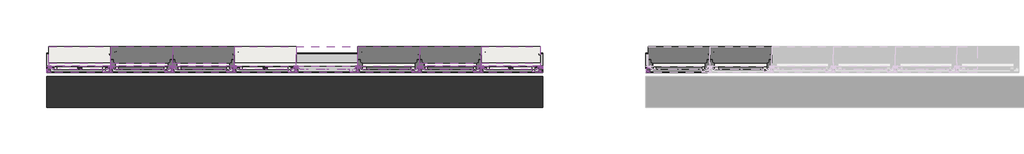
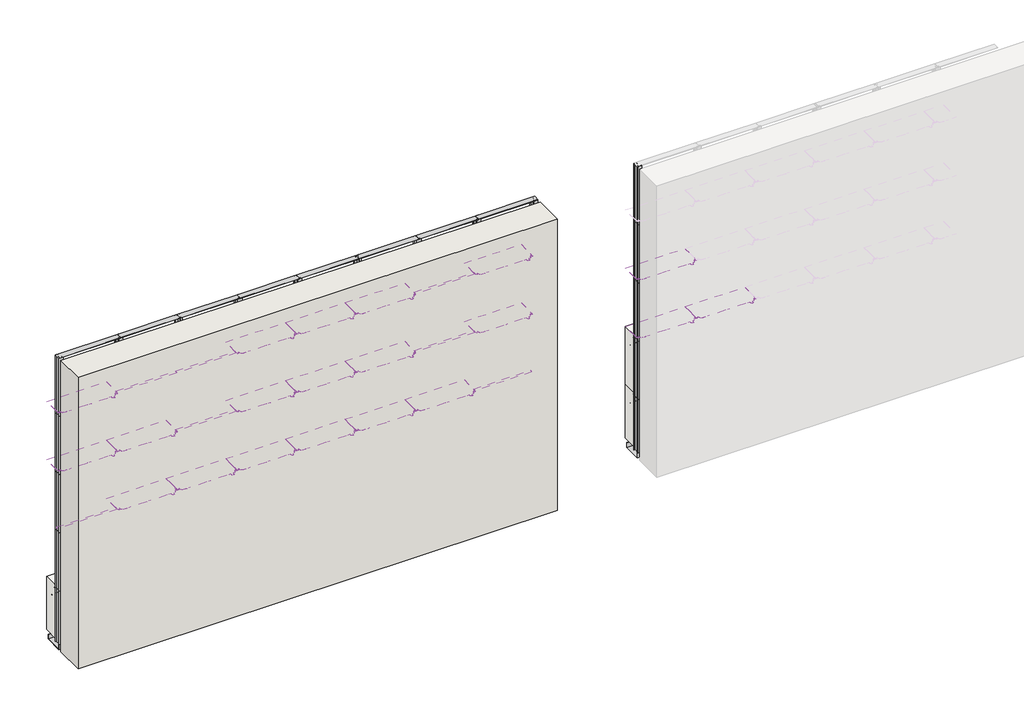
# One storey, part 1 of 3: 67 members, 47 coverings, 1 wall.
"""IFC4 building model written with IfcOpenShell, lengths in millimetres."""

from ifc_helpers import new_model, si_unit, origin, origin_with_axes, place, context, project, spatial, polyline, outline, extrude, transform, mapped, element, save
from components import covering_7bb15b48, covering_409b982e, covering_d2c58fca, covering_1d8d7e28, covering_791d1fb8, covering_1240b5f1, covering_480ba4d3, covering_a3d12077, covering_8a4f5f23, covering_2c5bf4f4, covering_cad52688, covering_7eb55cab, wood_panel_vp_wood_panel_vp_4e1c76e0, wood_panel_vp_wood_panel_vp_31be7e54, wood_panel_vp_wood_panel_vp_37c0b4ee, wood_panel_vp_wood_panel_vp_5256f62e, montante_rettangolare_288d97b3, montante_rettangolare_9a79dadd, montante_rettangolare_b34aec30, montante_rettangolare_b888e0b9, montante_rettangolare_38dc3529, montante_rettangolare_140c7172, montante_rettangolare_5246278a, montante_rettangolare_1f09e3fa, montante_rettangolare_b5d15ad1, montante_rettangolare_babdd543, montante_rettangolare_953541ee, montante_rettangolare_093b8246, montante_rettangolare_26806b37, montante_rettangolare_d40cfa43, montante_rettangolare_962a7c70

model = new_model("IFC4")

# Units and contexts
model_context = context("Model", 3, world=origin())
ifc_project = project(units=[si_unit("LENGTHUNIT", "METRE", prefix="MILLI")], contexts=[model_context])

# Site, building, storey
site = spatial("IfcSite", under=ifc_project)
building = spatial("IfcBuilding", under=site)
storey = spatial("IfcBuildingStorey", under=building, Name="Plant view - Fine details level - VP Modulo", Elevation=0.0)

# Coverings
placement = place(None, origin())
covering_shape = covering_7bb15b48(model_context)
covering_2_shape = covering_409b982e(model_context)
element("IfcCovering", 1, ObjectType="panel VP Modulo prova ultima texture : panel VP Modulo prova ultima texture", at=placement, inside=storey, context=model_context, shape_type="MappedRepresentation", body=[
    mapped(covering_shape, transform((5106.1795041, -498.0626129, 52.4801246), x_axis=(1.0, 0.0, 0.0), y_axis=(0.0, 1.0, 0.0), z_axis=(0.0, 0.0, 1.0))),
    mapped(covering_2_shape, transform((5106.1795041, -498.0626129, 52.4801246), x_axis=(1.0, 0.0, 0.0), y_axis=(0.0, 1.0, 0.0), z_axis=(0.0, 0.0, 1.0))),
])
element("IfcCovering", 2, ObjectType="panel VP Modulo prova ultima texture : panel VP Modulo prova ultima texture", at=placement, inside=storey, context=model_context, shape_type="MappedRepresentation", body=[
    mapped(covering_shape, transform((5706.1795041, -498.0626129, 52.4801246), x_axis=(1.0, 0.0, 0.0), y_axis=(0.0, 1.0, 0.0), z_axis=(0.0, 0.0, 1.0))),
    mapped(covering_2_shape, transform((5706.1795041, -498.0626129, 52.4801246), x_axis=(1.0, 0.0, 0.0), y_axis=(0.0, 1.0, 0.0), z_axis=(0.0, 0.0, 1.0))),
])
element("IfcCovering", 3, ObjectType="panel VP Modulo prova ultima texture : panel VP Modulo prova ultima texture", at=placement, inside=storey, context=model_context, shape_type="MappedRepresentation", body=[
    mapped(covering_shape, transform((-713.8204959, -498.0626129, 52.4801246), x_axis=(1.0, 0.0, 0.0), y_axis=(0.0, 1.0, 0.0), z_axis=(0.0, 0.0, 1.0))),
    mapped(covering_2_shape, transform((-713.8204959, -498.0626129, 52.4801246), x_axis=(1.0, 0.0, 0.0), y_axis=(0.0, 1.0, 0.0), z_axis=(0.0, 0.0, 1.0))),
])
element("IfcCovering", 4, ObjectType="panel VP Modulo prova ultima texture : panel VP Modulo prova ultima texture", at=placement, inside=storey, context=model_context, shape_type="MappedRepresentation", body=[
    mapped(covering_shape, transform((-113.8204959, -498.0626129, 52.4801246), x_axis=(1.0, 0.0, 0.0), y_axis=(0.0, 1.0, 0.0), z_axis=(0.0, 0.0, 1.0))),
    mapped(covering_2_shape, transform((-113.8204959, -498.0626129, 52.4801246), x_axis=(1.0, 0.0, 0.0), y_axis=(0.0, 1.0, 0.0), z_axis=(0.0, 0.0, 1.0))),
])
element("IfcCovering", 5, ObjectType="panel VP Modulo prova ultima texture : panel VP Modulo prova ultima texture", at=placement, inside=storey, context=model_context, shape_type="MappedRepresentation", body=[
    mapped(covering_shape, transform((486.1795041, -498.0626129, 52.4801246), x_axis=(1.0, 0.0, 0.0), y_axis=(0.0, 1.0, 0.0), z_axis=(0.0, 0.0, 1.0))),
    mapped(covering_2_shape, transform((486.1795041, -498.0626129, 52.4801246), x_axis=(1.0, 0.0, 0.0), y_axis=(0.0, 1.0, 0.0), z_axis=(0.0, 0.0, 1.0))),
])
element("IfcCovering", 6, ObjectType="panel VP Modulo prova ultima texture : panel VP Modulo prova ultima texture", at=placement, inside=storey, context=model_context, shape_type="MappedRepresentation", body=[
    mapped(covering_shape, transform((1086.1795041, -498.0626129, 52.4801246), x_axis=(1.0, 0.0, 0.0), y_axis=(0.0, 1.0, 0.0), z_axis=(0.0, 0.0, 1.0))),
    mapped(covering_2_shape, transform((1086.1795041, -498.0626129, 52.4801246), x_axis=(1.0, 0.0, 0.0), y_axis=(0.0, 1.0, 0.0), z_axis=(0.0, 0.0, 1.0))),
])
element("IfcCovering", 7, ObjectType="panel VP Modulo prova ultima texture : panel VP Modulo prova ultima texture", at=placement, inside=storey, context=model_context, shape_type="MappedRepresentation", body=[
    mapped(covering_shape, transform((2286.1795041, -498.0626129, 52.4801246), x_axis=(1.0, 0.0, 0.0), y_axis=(0.0, 1.0, 0.0), z_axis=(0.0, 0.0, 1.0))),
    mapped(covering_2_shape, transform((2286.1795041, -498.0626129, 52.4801246), x_axis=(1.0, 0.0, 0.0), y_axis=(0.0, 1.0, 0.0), z_axis=(0.0, 0.0, 1.0))),
])
element("IfcCovering", 8, ObjectType="panel VP Modulo prova ultima texture : panel VP Modulo prova ultima texture", at=placement, inside=storey, context=model_context, shape_type="MappedRepresentation", body=[
    mapped(covering_shape, transform((2886.1795041, -498.0626129, 52.4801246), x_axis=(1.0, 0.0, 0.0), y_axis=(0.0, 1.0, 0.0), z_axis=(0.0, 0.0, 1.0))),
    mapped(covering_2_shape, transform((2886.1795041, -498.0626129, 52.4801246), x_axis=(1.0, 0.0, 0.0), y_axis=(0.0, 1.0, 0.0), z_axis=(0.0, 0.0, 1.0))),
])
covering_3_shape = covering_d2c58fca(model_context)
covering_4_shape = covering_1d8d7e28(model_context)
element("IfcCovering", 9, ObjectType="panel VP Modulo prova ultima texture : panel VP Modulo prova ultima texture", at=placement, inside=storey, context=model_context, shape_type="MappedRepresentation", body=[
    mapped(covering_3_shape, transform((3472.41991, -498.0626129, 52.4801246), x_axis=(1.0, 0.0, 0.0), y_axis=(0.0, 1.0, 0.0), z_axis=(0.0, 0.0, 1.0))),
    mapped(covering_4_shape, transform((3472.41991, -498.0626129, 52.4801246), x_axis=(1.0, 0.0, 0.0), y_axis=(0.0, 1.0, 0.0), z_axis=(0.0, 0.0, 1.0))),
])
covering_5_shape = covering_791d1fb8(model_context)
covering_6_shape = covering_1240b5f1(model_context)
element("IfcCovering", 10, ObjectType="panel VP Modulo prova ultima texture : panel VP Modulo prova ultima texture", at=placement, inside=storey, context=model_context, shape_type="MappedRepresentation", body=[
    mapped(covering_5_shape, transform((5106.1795041, -498.0626129, 620.0), x_axis=(1.0, 0.0, 0.0), y_axis=(0.0, 1.0, 0.0), z_axis=(0.0, 0.0, 1.0))),
    mapped(covering_6_shape, transform((5106.1795041, -498.0626129, 620.0), x_axis=(1.0, 0.0, 0.0), y_axis=(0.0, 1.0, 0.0), z_axis=(0.0, 0.0, 1.0))),
])
element("IfcCovering", 11, ObjectType="panel VP Modulo prova ultima texture : panel VP Modulo prova ultima texture", at=placement, inside=storey, context=model_context, shape_type="MappedRepresentation", body=[
    mapped(covering_5_shape, transform((5706.1795041, -498.0626129, 620.0), x_axis=(1.0, 0.0, 0.0), y_axis=(0.0, 1.0, 0.0), z_axis=(0.0, 0.0, 1.0))),
    mapped(covering_6_shape, transform((5706.1795041, -498.0626129, 620.0), x_axis=(1.0, 0.0, 0.0), y_axis=(0.0, 1.0, 0.0), z_axis=(0.0, 0.0, 1.0))),
])
element("IfcCovering", 12, ObjectType="panel VP Modulo prova ultima texture : panel VP Modulo prova ultima texture", at=placement, inside=storey, context=model_context, shape_type="MappedRepresentation", body=[
    mapped(covering_5_shape, transform((5106.1795041, -498.0626129, 1240.0), x_axis=(1.0, 0.0, 0.0), y_axis=(0.0, 1.0, 0.0), z_axis=(0.0, 0.0, 1.0))),
    mapped(covering_6_shape, transform((5106.1795041, -498.0626129, 1240.0), x_axis=(1.0, 0.0, 0.0), y_axis=(0.0, 1.0, 0.0), z_axis=(0.0, 0.0, 1.0))),
])
element("IfcCovering", 13, ObjectType="panel VP Modulo prova ultima texture : panel VP Modulo prova ultima texture", at=placement, inside=storey, context=model_context, shape_type="MappedRepresentation", body=[
    mapped(covering_5_shape, transform((5706.1795041, -498.0626129, 1240.0), x_axis=(1.0, 0.0, 0.0), y_axis=(0.0, 1.0, 0.0), z_axis=(0.0, 0.0, 1.0))),
    mapped(covering_6_shape, transform((5706.1795041, -498.0626129, 1240.0), x_axis=(1.0, 0.0, 0.0), y_axis=(0.0, 1.0, 0.0), z_axis=(0.0, 0.0, 1.0))),
])
element("IfcCovering", 14, ObjectType="panel VP Modulo prova ultima texture : panel VP Modulo prova ultima texture", at=placement, inside=storey, context=model_context, shape_type="MappedRepresentation", body=[
    mapped(covering_5_shape, transform((5106.1795041, -498.0626129, 1860.0), x_axis=(1.0, 0.0, 0.0), y_axis=(0.0, 1.0, 0.0), z_axis=(0.0, 0.0, 1.0))),
    mapped(covering_6_shape, transform((5106.1795041, -498.0626129, 1860.0), x_axis=(1.0, 0.0, 0.0), y_axis=(0.0, 1.0, 0.0), z_axis=(0.0, 0.0, 1.0))),
])
element("IfcCovering", 15, ObjectType="panel VP Modulo prova ultima texture : panel VP Modulo prova ultima texture", at=placement, inside=storey, context=model_context, shape_type="MappedRepresentation", body=[
    mapped(covering_5_shape, transform((-113.8204959, -498.0626129, 620.0), x_axis=(1.0, 0.0, 0.0), y_axis=(0.0, 1.0, 0.0), z_axis=(0.0, 0.0, 1.0))),
    mapped(covering_6_shape, transform((-113.8204959, -498.0626129, 620.0), x_axis=(1.0, 0.0, 0.0), y_axis=(0.0, 1.0, 0.0), z_axis=(0.0, 0.0, 1.0))),
])
element("IfcCovering", 16, ObjectType="panel VP Modulo prova ultima texture : panel VP Modulo prova ultima texture", at=placement, inside=storey, context=model_context, shape_type="MappedRepresentation", body=[
    mapped(covering_5_shape, transform((486.1795041, -498.0626129, 620.0), x_axis=(1.0, 0.0, 0.0), y_axis=(0.0, 1.0, 0.0), z_axis=(0.0, 0.0, 1.0))),
    mapped(covering_6_shape, transform((486.1795041, -498.0626129, 620.0), x_axis=(1.0, 0.0, 0.0), y_axis=(0.0, 1.0, 0.0), z_axis=(0.0, 0.0, 1.0))),
])
element("IfcCovering", 17, ObjectType="panel VP Modulo prova ultima texture : panel VP Modulo prova ultima texture", at=placement, inside=storey, context=model_context, shape_type="MappedRepresentation", body=[
    mapped(covering_5_shape, transform((2286.1795041, -498.0626129, 620.0), x_axis=(1.0, 0.0, 0.0), y_axis=(0.0, 1.0, 0.0), z_axis=(0.0, 0.0, 1.0))),
    mapped(covering_6_shape, transform((2286.1795041, -498.0626129, 620.0), x_axis=(1.0, 0.0, 0.0), y_axis=(0.0, 1.0, 0.0), z_axis=(0.0, 0.0, 1.0))),
])
element("IfcCovering", 18, ObjectType="panel VP Modulo prova ultima texture : panel VP Modulo prova ultima texture", at=placement, inside=storey, context=model_context, shape_type="MappedRepresentation", body=[
    mapped(covering_5_shape, transform((2886.1795041, -498.0626129, 620.0), x_axis=(1.0, 0.0, 0.0), y_axis=(0.0, 1.0, 0.0), z_axis=(0.0, 0.0, 1.0))),
    mapped(covering_6_shape, transform((2886.1795041, -498.0626129, 620.0), x_axis=(1.0, 0.0, 0.0), y_axis=(0.0, 1.0, 0.0), z_axis=(0.0, 0.0, 1.0))),
])
element("IfcCovering", 19, ObjectType="panel VP Modulo prova ultima texture : panel VP Modulo prova ultima texture", at=placement, inside=storey, context=model_context, shape_type="MappedRepresentation", body=[
    mapped(covering_5_shape, transform((-113.8204959, -498.0626129, 1240.0), x_axis=(1.0, 0.0, 0.0), y_axis=(0.0, 1.0, 0.0), z_axis=(0.0, 0.0, 1.0))),
    mapped(covering_6_shape, transform((-113.8204959, -498.0626129, 1240.0), x_axis=(1.0, 0.0, 0.0), y_axis=(0.0, 1.0, 0.0), z_axis=(0.0, 0.0, 1.0))),
])
element("IfcCovering", 20, ObjectType="panel VP Modulo prova ultima texture : panel VP Modulo prova ultima texture", at=placement, inside=storey, context=model_context, shape_type="MappedRepresentation", body=[
    mapped(covering_5_shape, transform((486.1795041, -498.0626129, 1240.0), x_axis=(1.0, 0.0, 0.0), y_axis=(0.0, 1.0, 0.0), z_axis=(0.0, 0.0, 1.0))),
    mapped(covering_6_shape, transform((486.1795041, -498.0626129, 1240.0), x_axis=(1.0, 0.0, 0.0), y_axis=(0.0, 1.0, 0.0), z_axis=(0.0, 0.0, 1.0))),
])
element("IfcCovering", 21, ObjectType="panel VP Modulo prova ultima texture : panel VP Modulo prova ultima texture", at=placement, inside=storey, context=model_context, shape_type="MappedRepresentation", body=[
    mapped(covering_5_shape, transform((1086.1795041, -498.0626129, 1240.0), x_axis=(1.0, 0.0, 0.0), y_axis=(0.0, 1.0, 0.0), z_axis=(0.0, 0.0, 1.0))),
    mapped(covering_6_shape, transform((1086.1795041, -498.0626129, 1240.0), x_axis=(1.0, 0.0, 0.0), y_axis=(0.0, 1.0, 0.0), z_axis=(0.0, 0.0, 1.0))),
])
element("IfcCovering", 22, ObjectType="panel VP Modulo prova ultima texture : panel VP Modulo prova ultima texture", at=placement, inside=storey, context=model_context, shape_type="MappedRepresentation", body=[
    mapped(covering_5_shape, transform((1686.1795041, -498.0626129, 1240.0), x_axis=(1.0, 0.0, 0.0), y_axis=(0.0, 1.0, 0.0), z_axis=(0.0, 0.0, 1.0))),
    mapped(covering_6_shape, transform((1686.1795041, -498.0626129, 1240.0), x_axis=(1.0, 0.0, 0.0), y_axis=(0.0, 1.0, 0.0), z_axis=(0.0, 0.0, 1.0))),
])
element("IfcCovering", 23, ObjectType="panel VP Modulo prova ultima texture : panel VP Modulo prova ultima texture", at=placement, inside=storey, context=model_context, shape_type="MappedRepresentation", body=[
    mapped(covering_5_shape, transform((2286.1795041, -498.0626129, 1240.0), x_axis=(1.0, 0.0, 0.0), y_axis=(0.0, 1.0, 0.0), z_axis=(0.0, 0.0, 1.0))),
    mapped(covering_6_shape, transform((2286.1795041, -498.0626129, 1240.0), x_axis=(1.0, 0.0, 0.0), y_axis=(0.0, 1.0, 0.0), z_axis=(0.0, 0.0, 1.0))),
])
element("IfcCovering", 24, ObjectType="panel VP Modulo prova ultima texture : panel VP Modulo prova ultima texture", at=placement, inside=storey, context=model_context, shape_type="MappedRepresentation", body=[
    mapped(covering_5_shape, transform((2886.1795041, -498.0626129, 1240.0), x_axis=(1.0, 0.0, 0.0), y_axis=(0.0, 1.0, 0.0), z_axis=(0.0, 0.0, 1.0))),
    mapped(covering_6_shape, transform((2886.1795041, -498.0626129, 1240.0), x_axis=(1.0, 0.0, 0.0), y_axis=(0.0, 1.0, 0.0), z_axis=(0.0, 0.0, 1.0))),
])
element("IfcCovering", 25, ObjectType="panel VP Modulo prova ultima texture : panel VP Modulo prova ultima texture", at=placement, inside=storey, context=model_context, shape_type="MappedRepresentation", body=[
    mapped(covering_5_shape, transform((-713.8204959, -498.0626129, 1860.0), x_axis=(1.0, 0.0, 0.0), y_axis=(0.0, 1.0, 0.0), z_axis=(0.0, 0.0, 1.0))),
    mapped(covering_6_shape, transform((-713.8204959, -498.0626129, 1860.0), x_axis=(1.0, 0.0, 0.0), y_axis=(0.0, 1.0, 0.0), z_axis=(0.0, 0.0, 1.0))),
])
element("IfcCovering", 26, ObjectType="panel VP Modulo prova ultima texture : panel VP Modulo prova ultima texture", at=placement, inside=storey, context=model_context, shape_type="MappedRepresentation", body=[
    mapped(covering_5_shape, transform((-113.8204959, -498.0626129, 1860.0), x_axis=(1.0, 0.0, 0.0), y_axis=(0.0, 1.0, 0.0), z_axis=(0.0, 0.0, 1.0))),
    mapped(covering_6_shape, transform((-113.8204959, -498.0626129, 1860.0), x_axis=(1.0, 0.0, 0.0), y_axis=(0.0, 1.0, 0.0), z_axis=(0.0, 0.0, 1.0))),
])
element("IfcCovering", 27, ObjectType="panel VP Modulo prova ultima texture : panel VP Modulo prova ultima texture", at=placement, inside=storey, context=model_context, shape_type="MappedRepresentation", body=[
    mapped(covering_5_shape, transform((1086.1795041, -498.0626129, 1860.0), x_axis=(1.0, 0.0, 0.0), y_axis=(0.0, 1.0, 0.0), z_axis=(0.0, 0.0, 1.0))),
    mapped(covering_6_shape, transform((1086.1795041, -498.0626129, 1860.0), x_axis=(1.0, 0.0, 0.0), y_axis=(0.0, 1.0, 0.0), z_axis=(0.0, 0.0, 1.0))),
])
element("IfcCovering", 28, ObjectType="panel VP Modulo prova ultima texture : panel VP Modulo prova ultima texture", at=placement, inside=storey, context=model_context, shape_type="MappedRepresentation", body=[
    mapped(covering_5_shape, transform((1686.1795041, -498.0626129, 1860.0), x_axis=(1.0, 0.0, 0.0), y_axis=(0.0, 1.0, 0.0), z_axis=(0.0, 0.0, 1.0))),
    mapped(covering_6_shape, transform((1686.1795041, -498.0626129, 1860.0), x_axis=(1.0, 0.0, 0.0), y_axis=(0.0, 1.0, 0.0), z_axis=(0.0, 0.0, 1.0))),
])
element("IfcCovering", 29, ObjectType="panel VP Modulo prova ultima texture : panel VP Modulo prova ultima texture", at=placement, inside=storey, context=model_context, shape_type="MappedRepresentation", body=[
    mapped(covering_5_shape, transform((2286.1795041, -498.0626129, 1860.0), x_axis=(1.0, 0.0, 0.0), y_axis=(0.0, 1.0, 0.0), z_axis=(0.0, 0.0, 1.0))),
    mapped(covering_6_shape, transform((2286.1795041, -498.0626129, 1860.0), x_axis=(1.0, 0.0, 0.0), y_axis=(0.0, 1.0, 0.0), z_axis=(0.0, 0.0, 1.0))),
])
covering_7_shape = covering_480ba4d3(model_context)
covering_8_shape = covering_a3d12077(model_context)
element("IfcCovering", 30, ObjectType="panel VP Modulo prova ultima texture : panel VP Modulo prova ultima texture", at=placement, inside=storey, context=model_context, shape_type="MappedRepresentation", body=[
    mapped(covering_7_shape, transform((3472.41991, -498.0626129, 1860.0), x_axis=(1.0, 0.0, 0.0), y_axis=(0.0, 1.0, 0.0), z_axis=(0.0, 0.0, 1.0))),
    mapped(covering_8_shape, transform((3472.41991, -498.0626129, 1860.0), x_axis=(1.0, 0.0, 0.0), y_axis=(0.0, 1.0, 0.0), z_axis=(0.0, 0.0, 1.0))),
])
covering_9_shape = covering_8a4f5f23(model_context)
covering_10_shape = covering_2c5bf4f4(model_context)
element("IfcCovering", 31, ObjectType="panel VP Modulo prova ultima texture : panel VP Modulo prova ultima texture", at=placement, inside=storey, context=model_context, shape_type="MappedRepresentation", body=[
    mapped(covering_9_shape, transform((-713.8204959, -498.0626129, 2480.0), x_axis=(1.0, 0.0, 0.0), y_axis=(0.0, 1.0, 0.0), z_axis=(0.0, 0.0, 1.0))),
    mapped(covering_10_shape, transform((-713.8204959, -498.0626129, 2480.0), x_axis=(1.0, 0.0, 0.0), y_axis=(0.0, 1.0, 0.0), z_axis=(0.0, 0.0, 1.0))),
])
element("IfcCovering", 32, ObjectType="panel VP Modulo prova ultima texture : panel VP Modulo prova ultima texture", at=placement, inside=storey, context=model_context, shape_type="MappedRepresentation", body=[
    mapped(covering_9_shape, transform((1086.1795041, -498.0626129, 2480.0), x_axis=(1.0, 0.0, 0.0), y_axis=(0.0, 1.0, 0.0), z_axis=(0.0, 0.0, 1.0))),
    mapped(covering_10_shape, transform((1086.1795041, -498.0626129, 2480.0), x_axis=(1.0, 0.0, 0.0), y_axis=(0.0, 1.0, 0.0), z_axis=(0.0, 0.0, 1.0))),
])
element("IfcCovering", 33, ObjectType="panel VP Modulo prova ultima texture : panel VP Modulo prova ultima texture", at=placement, inside=storey, context=model_context, shape_type="MappedRepresentation", body=[
    mapped(covering_9_shape, transform((1686.1795041, -498.0626129, 2480.0), x_axis=(1.0, 0.0, 0.0), y_axis=(0.0, 1.0, 0.0), z_axis=(0.0, 0.0, 1.0))),
    mapped(covering_10_shape, transform((1686.1795041, -498.0626129, 2480.0), x_axis=(1.0, 0.0, 0.0), y_axis=(0.0, 1.0, 0.0), z_axis=(0.0, 0.0, 1.0))),
])
element("IfcCovering", 34, ObjectType="panel VP Modulo prova ultima texture : panel VP Modulo prova ultima texture", at=placement, inside=storey, context=model_context, shape_type="MappedRepresentation", body=[
    mapped(covering_9_shape, transform((2286.1795041, -498.0626129, 2480.0), x_axis=(1.0, 0.0, 0.0), y_axis=(0.0, 1.0, 0.0), z_axis=(0.0, 0.0, 1.0))),
    mapped(covering_10_shape, transform((2286.1795041, -498.0626129, 2480.0), x_axis=(1.0, 0.0, 0.0), y_axis=(0.0, 1.0, 0.0), z_axis=(0.0, 0.0, 1.0))),
])
covering_11_shape = covering_cad52688(model_context)
covering_12_shape = covering_7eb55cab(model_context)
element("IfcCovering", 35, ObjectType="panel VP Modulo prova ultima texture : panel VP Modulo prova ultima texture", at=placement, inside=storey, context=model_context, shape_type="MappedRepresentation", body=[
    mapped(covering_11_shape, transform((3472.41991, -498.0626129, 2480.0), x_axis=(1.0, 0.0, 0.0), y_axis=(0.0, 1.0, 0.0), z_axis=(0.0, 0.0, 1.0))),
    mapped(covering_12_shape, transform((3472.41991, -498.0626129, 2480.0), x_axis=(1.0, 0.0, 0.0), y_axis=(0.0, 1.0, 0.0), z_axis=(0.0, 0.0, 1.0))),
])
wood_panel_vp_wood_panel_vp_shape = wood_panel_vp_wood_panel_vp_4e1c76e0(model_context)
element("IfcCovering", 36, ObjectType="Wood panel VP : Wood panel VP", at=placement, inside=storey, context=model_context, shape_type="MappedRepresentation", body=[
    mapped(wood_panel_vp_wood_panel_vp_shape, transform((-713.8204959, -498.0626129, 620.0), x_axis=(1.0, 0.0, 0.0), y_axis=(0.0, 1.0, 0.0), z_axis=(0.0, 0.0, 1.0))),
])
element("IfcCovering", 37, ObjectType="Wood panel VP : Wood panel VP", at=placement, inside=storey, context=model_context, shape_type="MappedRepresentation", body=[
    mapped(wood_panel_vp_wood_panel_vp_shape, transform((1086.1795041, -498.0626129, 620.0), x_axis=(1.0, 0.0, 0.0), y_axis=(0.0, 1.0, 0.0), z_axis=(0.0, 0.0, 1.0))),
])
element("IfcCovering", 38, ObjectType="Wood panel VP : Wood panel VP", at=placement, inside=storey, context=model_context, shape_type="MappedRepresentation", body=[
    mapped(wood_panel_vp_wood_panel_vp_shape, transform((1686.1795041, -498.0626129, 620.0), x_axis=(1.0, 0.0, 0.0), y_axis=(0.0, 1.0, 0.0), z_axis=(0.0, 0.0, 1.0))),
])
element("IfcCovering", 39, ObjectType="Wood panel VP : Wood panel VP", at=placement, inside=storey, context=model_context, shape_type="MappedRepresentation", body=[
    mapped(wood_panel_vp_wood_panel_vp_shape, transform((-713.8204959, -498.0626129, 1240.0), x_axis=(1.0, 0.0, 0.0), y_axis=(0.0, 1.0, 0.0), z_axis=(0.0, 0.0, 1.0))),
])
element("IfcCovering", 40, ObjectType="Wood panel VP : Wood panel VP", at=placement, inside=storey, context=model_context, shape_type="MappedRepresentation", body=[
    mapped(wood_panel_vp_wood_panel_vp_shape, transform((486.1795041, -498.0626129, 1860.0), x_axis=(1.0, 0.0, 0.0), y_axis=(0.0, 1.0, 0.0), z_axis=(0.0, 0.0, 1.0))),
])
element("IfcCovering", 41, ObjectType="Wood panel VP : Wood panel VP", at=placement, inside=storey, context=model_context, shape_type="MappedRepresentation", body=[
    mapped(wood_panel_vp_wood_panel_vp_shape, transform((2886.1795041, -498.0626129, 1860.0), x_axis=(1.0, 0.0, 0.0), y_axis=(0.0, 1.0, 0.0), z_axis=(0.0, 0.0, 1.0))),
])
wood_panel_vp_wood_panel_vp_2_shape = wood_panel_vp_wood_panel_vp_31be7e54(model_context)
element("IfcCovering", 42, ObjectType="Wood panel VP : Wood panel VP", at=placement, inside=storey, context=model_context, shape_type="MappedRepresentation", body=[
    mapped(wood_panel_vp_wood_panel_vp_2_shape, transform((3472.41991, -498.0626129, 620.0), x_axis=(1.0, 0.0, 0.0), y_axis=(0.0, 1.0, 0.0), z_axis=(0.0, 0.0, 1.0))),
])
element("IfcCovering", 43, ObjectType="Wood panel VP : Wood panel VP", at=placement, inside=storey, context=model_context, shape_type="MappedRepresentation", body=[
    mapped(wood_panel_vp_wood_panel_vp_2_shape, transform((3472.41991, -498.0626129, 1240.0), x_axis=(1.0, 0.0, 0.0), y_axis=(0.0, 1.0, 0.0), z_axis=(0.0, 0.0, 1.0))),
])
wood_panel_vp_wood_panel_vp_3_shape = wood_panel_vp_wood_panel_vp_37c0b4ee(model_context)
element("IfcCovering", 44, ObjectType="Wood panel VP : Wood panel VP", at=placement, inside=storey, context=model_context, shape_type="MappedRepresentation", body=[
    mapped(wood_panel_vp_wood_panel_vp_3_shape, transform((1686.1795041, -498.0626129, 52.4801246), x_axis=(1.0, 0.0, 0.0), y_axis=(0.0, 1.0, 0.0), z_axis=(0.0, 0.0, 1.0))),
])
wood_panel_vp_wood_panel_vp_4_shape = wood_panel_vp_wood_panel_vp_5256f62e(model_context)
element("IfcCovering", 45, ObjectType="Wood panel VP : Wood panel VP", at=placement, inside=storey, context=model_context, shape_type="MappedRepresentation", body=[
    mapped(wood_panel_vp_wood_panel_vp_4_shape, transform((-113.8204959, -498.0626129, 2480.0), x_axis=(1.0, 0.0, 0.0), y_axis=(0.0, 1.0, 0.0), z_axis=(0.0, 0.0, 1.0))),
])
element("IfcCovering", 46, ObjectType="Wood panel VP : Wood panel VP", at=placement, inside=storey, context=model_context, shape_type="MappedRepresentation", body=[
    mapped(wood_panel_vp_wood_panel_vp_4_shape, transform((486.1795041, -498.0626129, 2480.0), x_axis=(1.0, 0.0, 0.0), y_axis=(0.0, 1.0, 0.0), z_axis=(0.0, 0.0, 1.0))),
])
element("IfcCovering", 47, ObjectType="Wood panel VP : Wood panel VP", at=placement, inside=storey, context=model_context, shape_type="MappedRepresentation", body=[
    mapped(wood_panel_vp_wood_panel_vp_4_shape, transform((2886.1795041, -498.0626129, 2480.0), x_axis=(1.0, 0.0, 0.0), y_axis=(0.0, 1.0, 0.0), z_axis=(0.0, 0.0, 1.0))),
])

# Members
montante_rettangolare_shape = montante_rettangolare_288d97b3(model_context)
element("IfcMember", 48, ObjectType="Montante rettangolare : Verde Profilo's RaceWaterDrainFloor", at=placement, inside=storey, context=model_context, shape_type="MappedRepresentation", body=[
    mapped(montante_rettangolare_shape, transform((4782.41991, -498.0626129, 0.0), x_axis=(0.0, 0.0, -1.0), y_axis=(0.0, -1.0, 0.0), z_axis=(-1.0, 0.0, 0.0))),
])
element("IfcMember", 49, ObjectType="Montante rettangolare : Verde Profilo's RaceWaterDrainFloor", at=placement, inside=storey, context=model_context, shape_type="MappedRepresentation", body=[
    mapped(montante_rettangolare_shape, transform((-1037.58009, -498.0626129, 0.0), x_axis=(0.0, 0.0, -1.0), y_axis=(0.0, -1.0, 0.0), z_axis=(-1.0, 0.0, 0.0))),
])
montante_rettangolare_2_shape = montante_rettangolare_9a79dadd(model_context)
element("IfcMember", 50, ObjectType="Montante rettangolare : Verde Profilo's RaceWaterDrainFloor", at=placement, inside=storey, context=model_context, shape_type="MappedRepresentation", body=[
    mapped(montante_rettangolare_2_shape, transform((-413.8204959, -498.0626129, 0.0), x_axis=(0.0, 0.0, -1.0), y_axis=(0.0, -1.0, 0.0), z_axis=(-1.0, 0.0, 0.0))),
])
element("IfcMember", 51, ObjectType="Montante rettangolare : Verde Profilo's RaceWaterDrainFloor", at=placement, inside=storey, context=model_context, shape_type="MappedRepresentation", body=[
    mapped(montante_rettangolare_2_shape, transform((186.1795041, -498.0626129, 0.0), x_axis=(0.0, 0.0, -1.0), y_axis=(0.0, -1.0, 0.0), z_axis=(-1.0, 0.0, 0.0))),
])
element("IfcMember", 52, ObjectType="Montante rettangolare : Verde Profilo's RaceWaterDrainFloor", at=placement, inside=storey, context=model_context, shape_type="MappedRepresentation", body=[
    mapped(montante_rettangolare_2_shape, transform((786.1795041, -498.0626129, 0.0), x_axis=(0.0, 0.0, -1.0), y_axis=(0.0, -1.0, 0.0), z_axis=(-1.0, 0.0, 0.0))),
])
element("IfcMember", 53, ObjectType="Montante rettangolare : Verde Profilo's RaceWaterDrainFloor", at=placement, inside=storey, context=model_context, shape_type="MappedRepresentation", body=[
    mapped(montante_rettangolare_2_shape, transform((1386.1795041, -498.0626129, 0.0), x_axis=(0.0, 0.0, -1.0), y_axis=(0.0, -1.0, 0.0), z_axis=(-1.0, 0.0, 0.0))),
])
element("IfcMember", 54, ObjectType="Montante rettangolare : Verde Profilo's RaceWaterDrainFloor", at=placement, inside=storey, context=model_context, shape_type="MappedRepresentation", body=[
    mapped(montante_rettangolare_2_shape, transform((1986.1795041, -498.0626129, 0.0), x_axis=(0.0, 0.0, -1.0), y_axis=(0.0, -1.0, 0.0), z_axis=(-1.0, 0.0, 0.0))),
])
element("IfcMember", 55, ObjectType="Montante rettangolare : Verde Profilo's RaceWaterDrainFloor", at=placement, inside=storey, context=model_context, shape_type="MappedRepresentation", body=[
    mapped(montante_rettangolare_2_shape, transform((2586.1795041, -498.0626129, 0.0), x_axis=(0.0, 0.0, -1.0), y_axis=(0.0, -1.0, 0.0), z_axis=(-1.0, 0.0, 0.0))),
])
montante_rettangolare_3_shape = montante_rettangolare_b34aec30(model_context)
element("IfcMember", 56, ObjectType="Montante rettangolare : Verde Profilo's RaceWaterDrainFloor", at=placement, inside=storey, context=model_context, shape_type="MappedRepresentation", body=[
    mapped(montante_rettangolare_3_shape, transform((3186.1795041, -498.0626129, 0.0), x_axis=(0.0, 0.0, -1.0), y_axis=(0.0, -1.0, 0.0), z_axis=(-1.0, 0.0, 0.0))),
])
montante_rettangolare_4_shape = montante_rettangolare_b888e0b9(model_context)
element("IfcMember", 57, ObjectType="Montante rettangolare : Verde Profilo's Uprights", at=placement, inside=storey, context=model_context, shape_type="MappedRepresentation", body=[
    mapped(montante_rettangolare_4_shape, transform((-413.8204959, -498.0626129, 52.4801246), x_axis=(1.0, 0.0, 0.0), y_axis=(0.0, -1.0, 0.0), z_axis=(0.0, 0.0, -1.0))),
])
element("IfcMember", 58, ObjectType="Montante rettangolare : Verde Profilo's Uprights", at=placement, inside=storey, context=model_context, shape_type="MappedRepresentation", body=[
    mapped(montante_rettangolare_4_shape, transform((186.1795041, -498.0626129, 52.4801246), x_axis=(1.0, 0.0, 0.0), y_axis=(0.0, -1.0, 0.0), z_axis=(0.0, 0.0, -1.0))),
])
element("IfcMember", 59, ObjectType="Montante rettangolare : Verde Profilo's Uprights", at=placement, inside=storey, context=model_context, shape_type="MappedRepresentation", body=[
    mapped(montante_rettangolare_4_shape, transform((786.1795041, -498.0626129, 52.4801246), x_axis=(1.0, 0.0, 0.0), y_axis=(0.0, -1.0, 0.0), z_axis=(0.0, 0.0, -1.0))),
])
element("IfcMember", 60, ObjectType="Montante rettangolare : Verde Profilo's Uprights", at=placement, inside=storey, context=model_context, shape_type="MappedRepresentation", body=[
    mapped(montante_rettangolare_4_shape, transform((1386.1795041, -498.0626129, 52.4801246), x_axis=(1.0, 0.0, 0.0), y_axis=(0.0, -1.0, 0.0), z_axis=(0.0, 0.0, -1.0))),
])
element("IfcMember", 61, ObjectType="Montante rettangolare : Verde Profilo's Uprights", at=placement, inside=storey, context=model_context, shape_type="MappedRepresentation", body=[
    mapped(montante_rettangolare_4_shape, transform((1986.1795041, -498.0626129, 52.4801246), x_axis=(1.0, 0.0, 0.0), y_axis=(0.0, -1.0, 0.0), z_axis=(0.0, 0.0, -1.0))),
])
element("IfcMember", 62, ObjectType="Montante rettangolare : Verde Profilo's Uprights", at=placement, inside=storey, context=model_context, shape_type="MappedRepresentation", body=[
    mapped(montante_rettangolare_4_shape, transform((2586.1795041, -498.0626129, 52.4801246), x_axis=(1.0, 0.0, 0.0), y_axis=(0.0, -1.0, 0.0), z_axis=(0.0, 0.0, -1.0))),
])
element("IfcMember", 63, ObjectType="Montante rettangolare : Verde Profilo's Uprights", at=placement, inside=storey, context=model_context, shape_type="MappedRepresentation", body=[
    mapped(montante_rettangolare_4_shape, transform((3186.1795041, -498.0626129, 52.4801246), x_axis=(1.0, 0.0, 0.0), y_axis=(0.0, -1.0, 0.0), z_axis=(0.0, 0.0, -1.0))),
])
montante_rettangolare_5_shape = montante_rettangolare_38dc3529(model_context)
element("IfcMember", 64, ObjectType="Montante rettangolare : Verde Profilo's Uprights", at=placement, inside=storey, context=model_context, shape_type="MappedRepresentation", body=[
    mapped(montante_rettangolare_5_shape, transform((-413.8204959, -498.0626129, 620.0), x_axis=(1.0, 0.0, 0.0), y_axis=(0.0, -1.0, 0.0), z_axis=(0.0, 0.0, -1.0))),
])
element("IfcMember", 65, ObjectType="Montante rettangolare : Verde Profilo's Uprights", at=placement, inside=storey, context=model_context, shape_type="MappedRepresentation", body=[
    mapped(montante_rettangolare_5_shape, transform((186.1795041, -498.0626129, 620.0), x_axis=(1.0, 0.0, 0.0), y_axis=(0.0, -1.0, 0.0), z_axis=(0.0, 0.0, -1.0))),
])
element("IfcMember", 66, ObjectType="Montante rettangolare : Verde Profilo's Uprights", at=placement, inside=storey, context=model_context, shape_type="MappedRepresentation", body=[
    mapped(montante_rettangolare_5_shape, transform((786.1795041, -498.0626129, 620.0), x_axis=(1.0, 0.0, 0.0), y_axis=(0.0, -1.0, 0.0), z_axis=(0.0, 0.0, -1.0))),
])
element("IfcMember", 67, ObjectType="Montante rettangolare : Verde Profilo's Uprights", at=placement, inside=storey, context=model_context, shape_type="MappedRepresentation", body=[
    mapped(montante_rettangolare_5_shape, transform((1386.1795041, -498.0626129, 620.0), x_axis=(1.0, 0.0, 0.0), y_axis=(0.0, -1.0, 0.0), z_axis=(0.0, 0.0, -1.0))),
])
element("IfcMember", 68, ObjectType="Montante rettangolare : Verde Profilo's Uprights", at=placement, inside=storey, context=model_context, shape_type="MappedRepresentation", body=[
    mapped(montante_rettangolare_5_shape, transform((1986.1795041, -498.0626129, 620.0), x_axis=(1.0, 0.0, 0.0), y_axis=(0.0, -1.0, 0.0), z_axis=(0.0, 0.0, -1.0))),
])
element("IfcMember", 69, ObjectType="Montante rettangolare : Verde Profilo's Uprights", at=placement, inside=storey, context=model_context, shape_type="MappedRepresentation", body=[
    mapped(montante_rettangolare_5_shape, transform((2586.1795041, -498.0626129, 620.0), x_axis=(1.0, 0.0, 0.0), y_axis=(0.0, -1.0, 0.0), z_axis=(0.0, 0.0, -1.0))),
])
element("IfcMember", 70, ObjectType="Montante rettangolare : Verde Profilo's Uprights", at=placement, inside=storey, context=model_context, shape_type="MappedRepresentation", body=[
    mapped(montante_rettangolare_5_shape, transform((3186.1795041, -498.0626129, 620.0), x_axis=(1.0, 0.0, 0.0), y_axis=(0.0, -1.0, 0.0), z_axis=(0.0, 0.0, -1.0))),
])
element("IfcMember", 71, ObjectType="Montante rettangolare : Verde Profilo's Uprights", at=placement, inside=storey, context=model_context, shape_type="MappedRepresentation", body=[
    mapped(montante_rettangolare_5_shape, transform((-413.8204959, -498.0626129, 1240.0), x_axis=(1.0, 0.0, 0.0), y_axis=(0.0, -1.0, 0.0), z_axis=(0.0, 0.0, -1.0))),
])
element("IfcMember", 72, ObjectType="Montante rettangolare : Verde Profilo's Uprights", at=placement, inside=storey, context=model_context, shape_type="MappedRepresentation", body=[
    mapped(montante_rettangolare_5_shape, transform((186.1795041, -498.0626129, 1240.0), x_axis=(1.0, 0.0, 0.0), y_axis=(0.0, -1.0, 0.0), z_axis=(0.0, 0.0, -1.0))),
])
element("IfcMember", 73, ObjectType="Montante rettangolare : Verde Profilo's Uprights", at=placement, inside=storey, context=model_context, shape_type="MappedRepresentation", body=[
    mapped(montante_rettangolare_5_shape, transform((786.1795041, -498.0626129, 1240.0), x_axis=(1.0, 0.0, 0.0), y_axis=(0.0, -1.0, 0.0), z_axis=(0.0, 0.0, -1.0))),
])
element("IfcMember", 74, ObjectType="Montante rettangolare : Verde Profilo's Uprights", at=placement, inside=storey, context=model_context, shape_type="MappedRepresentation", body=[
    mapped(montante_rettangolare_5_shape, transform((1386.1795041, -498.0626129, 1240.0), x_axis=(1.0, 0.0, 0.0), y_axis=(0.0, -1.0, 0.0), z_axis=(0.0, 0.0, -1.0))),
])
element("IfcMember", 75, ObjectType="Montante rettangolare : Verde Profilo's Uprights", at=placement, inside=storey, context=model_context, shape_type="MappedRepresentation", body=[
    mapped(montante_rettangolare_5_shape, transform((1986.1795041, -498.0626129, 1240.0), x_axis=(1.0, 0.0, 0.0), y_axis=(0.0, -1.0, 0.0), z_axis=(0.0, 0.0, -1.0))),
])
element("IfcMember", 76, ObjectType="Montante rettangolare : Verde Profilo's Uprights", at=placement, inside=storey, context=model_context, shape_type="MappedRepresentation", body=[
    mapped(montante_rettangolare_5_shape, transform((2586.1795041, -498.0626129, 1240.0), x_axis=(1.0, 0.0, 0.0), y_axis=(0.0, -1.0, 0.0), z_axis=(0.0, 0.0, -1.0))),
])
element("IfcMember", 77, ObjectType="Montante rettangolare : Verde Profilo's Uprights", at=placement, inside=storey, context=model_context, shape_type="MappedRepresentation", body=[
    mapped(montante_rettangolare_5_shape, transform((3186.1795041, -498.0626129, 1240.0), x_axis=(1.0, 0.0, 0.0), y_axis=(0.0, -1.0, 0.0), z_axis=(0.0, 0.0, -1.0))),
])
element("IfcMember", 78, ObjectType="Montante rettangolare : Verde Profilo's Uprights", at=placement, inside=storey, context=model_context, shape_type="MappedRepresentation", body=[
    mapped(montante_rettangolare_5_shape, transform((-413.8204959, -498.0626129, 1860.0), x_axis=(1.0, 0.0, 0.0), y_axis=(0.0, -1.0, 0.0), z_axis=(0.0, 0.0, -1.0))),
])
element("IfcMember", 79, ObjectType="Montante rettangolare : Verde Profilo's Uprights", at=placement, inside=storey, context=model_context, shape_type="MappedRepresentation", body=[
    mapped(montante_rettangolare_5_shape, transform((186.1795041, -498.0626129, 1860.0), x_axis=(1.0, 0.0, 0.0), y_axis=(0.0, -1.0, 0.0), z_axis=(0.0, 0.0, -1.0))),
])
element("IfcMember", 80, ObjectType="Montante rettangolare : Verde Profilo's Uprights", at=placement, inside=storey, context=model_context, shape_type="MappedRepresentation", body=[
    mapped(montante_rettangolare_5_shape, transform((786.1795041, -498.0626129, 1860.0), x_axis=(1.0, 0.0, 0.0), y_axis=(0.0, -1.0, 0.0), z_axis=(0.0, 0.0, -1.0))),
])
element("IfcMember", 81, ObjectType="Montante rettangolare : Verde Profilo's Uprights", at=placement, inside=storey, context=model_context, shape_type="MappedRepresentation", body=[
    mapped(montante_rettangolare_5_shape, transform((1386.1795041, -498.0626129, 1860.0), x_axis=(1.0, 0.0, 0.0), y_axis=(0.0, -1.0, 0.0), z_axis=(0.0, 0.0, -1.0))),
])
element("IfcMember", 82, ObjectType="Montante rettangolare : Verde Profilo's Uprights", at=placement, inside=storey, context=model_context, shape_type="MappedRepresentation", body=[
    mapped(montante_rettangolare_5_shape, transform((1986.1795041, -498.0626129, 1860.0), x_axis=(1.0, 0.0, 0.0), y_axis=(0.0, -1.0, 0.0), z_axis=(0.0, 0.0, -1.0))),
])
element("IfcMember", 83, ObjectType="Montante rettangolare : Verde Profilo's Uprights", at=placement, inside=storey, context=model_context, shape_type="MappedRepresentation", body=[
    mapped(montante_rettangolare_5_shape, transform((2586.1795041, -498.0626129, 1860.0), x_axis=(1.0, 0.0, 0.0), y_axis=(0.0, -1.0, 0.0), z_axis=(0.0, 0.0, -1.0))),
])
element("IfcMember", 84, ObjectType="Montante rettangolare : Verde Profilo's Uprights", at=placement, inside=storey, context=model_context, shape_type="MappedRepresentation", body=[
    mapped(montante_rettangolare_5_shape, transform((3186.1795041, -498.0626129, 1860.0), x_axis=(1.0, 0.0, 0.0), y_axis=(0.0, -1.0, 0.0), z_axis=(0.0, 0.0, -1.0))),
])
montante_rettangolare_6_shape = montante_rettangolare_140c7172(model_context)
element("IfcMember", 85, ObjectType="Montante rettangolare : Verde Profilo's Uprights", at=placement, inside=storey, context=model_context, shape_type="MappedRepresentation", body=[
    mapped(montante_rettangolare_6_shape, transform((3782.41991, -498.0626129, 52.4801246), x_axis=(1.0, 0.0, 0.0), y_axis=(0.0, -1.0, 0.0), z_axis=(0.0, 0.0, -1.0))),
])
montante_rettangolare_7_shape = montante_rettangolare_5246278a(model_context)
element("IfcMember", 86, ObjectType="Montante rettangolare : Verde Profilo's Uprights", at=placement, inside=storey, context=model_context, shape_type="MappedRepresentation", body=[
    mapped(montante_rettangolare_7_shape, transform((3782.41991, -498.0626129, 620.0), x_axis=(1.0, 0.0, 0.0), y_axis=(0.0, -1.0, 0.0), z_axis=(0.0, 0.0, -1.0))),
])
element("IfcMember", 87, ObjectType="Montante rettangolare : Verde Profilo's Uprights", at=placement, inside=storey, context=model_context, shape_type="MappedRepresentation", body=[
    mapped(montante_rettangolare_7_shape, transform((3782.41991, -498.0626129, 1240.0), x_axis=(1.0, 0.0, 0.0), y_axis=(0.0, -1.0, 0.0), z_axis=(0.0, 0.0, -1.0))),
])
element("IfcMember", 88, ObjectType="Montante rettangolare : Verde Profilo's Uprights", at=placement, inside=storey, context=model_context, shape_type="MappedRepresentation", body=[
    mapped(montante_rettangolare_7_shape, transform((3782.41991, -498.0626129, 1860.0), x_axis=(1.0, 0.0, 0.0), y_axis=(0.0, -1.0, 0.0), z_axis=(0.0, 0.0, -1.0))),
])
montante_rettangolare_8_shape = montante_rettangolare_1f09e3fa(model_context)
element("IfcMember", 89, ObjectType="Montante rettangolare : Verde Profilo's Uprights", at=placement, inside=storey, context=model_context, shape_type="MappedRepresentation", body=[
    mapped(montante_rettangolare_8_shape, transform((4782.41991, -498.0626129, 620.0), x_axis=(-1.0, 0.0, 0.0), y_axis=(0.0, -1.0, 0.0), z_axis=(0.0, 0.0, 1.0))),
])
element("IfcMember", 90, ObjectType="Montante rettangolare : Verde Profilo's Uprights", at=placement, inside=storey, context=model_context, shape_type="MappedRepresentation", body=[
    mapped(montante_rettangolare_8_shape, transform((-1037.58009, -498.0626129, 620.0), x_axis=(-1.0, 0.0, 0.0), y_axis=(0.0, -1.0, 0.0), z_axis=(0.0, 0.0, 1.0))),
])
montante_rettangolare_9_shape = montante_rettangolare_b5d15ad1(model_context)
element("IfcMember", 91, ObjectType="Montante rettangolare : Verde Profilo's Uprights", at=placement, inside=storey, context=model_context, shape_type="MappedRepresentation", body=[
    mapped(montante_rettangolare_9_shape, transform((4782.41991, -498.0626129, 1240.0), x_axis=(-1.0, 0.0, 0.0), y_axis=(0.0, -1.0, 0.0), z_axis=(0.0, 0.0, 1.0))),
])
element("IfcMember", 92, ObjectType="Montante rettangolare : Verde Profilo's Uprights", at=placement, inside=storey, context=model_context, shape_type="MappedRepresentation", body=[
    mapped(montante_rettangolare_9_shape, transform((4782.41991, -498.0626129, 1860.0), x_axis=(-1.0, 0.0, 0.0), y_axis=(0.0, -1.0, 0.0), z_axis=(0.0, 0.0, 1.0))),
])
element("IfcMember", 93, ObjectType="Montante rettangolare : Verde Profilo's Uprights", at=placement, inside=storey, context=model_context, shape_type="MappedRepresentation", body=[
    mapped(montante_rettangolare_9_shape, transform((4782.41991, -498.0626129, 2480.0), x_axis=(-1.0, 0.0, 0.0), y_axis=(0.0, -1.0, 0.0), z_axis=(0.0, 0.0, 1.0))),
])
element("IfcMember", 94, ObjectType="Montante rettangolare : Verde Profilo's Uprights", at=placement, inside=storey, context=model_context, shape_type="MappedRepresentation", body=[
    mapped(montante_rettangolare_9_shape, transform((-1037.58009, -498.0626129, 1240.0), x_axis=(-1.0, 0.0, 0.0), y_axis=(0.0, -1.0, 0.0), z_axis=(0.0, 0.0, 1.0))),
])
element("IfcMember", 95, ObjectType="Montante rettangolare : Verde Profilo's Uprights", at=placement, inside=storey, context=model_context, shape_type="MappedRepresentation", body=[
    mapped(montante_rettangolare_9_shape, transform((-1037.58009, -498.0626129, 1860.0), x_axis=(-1.0, 0.0, 0.0), y_axis=(0.0, -1.0, 0.0), z_axis=(0.0, 0.0, 1.0))),
])
element("IfcMember", 96, ObjectType="Montante rettangolare : Verde Profilo's Uprights", at=placement, inside=storey, context=model_context, shape_type="MappedRepresentation", body=[
    mapped(montante_rettangolare_9_shape, transform((-1037.58009, -498.0626129, 2480.0), x_axis=(-1.0, 0.0, 0.0), y_axis=(0.0, -1.0, 0.0), z_axis=(0.0, 0.0, 1.0))),
])
montante_rettangolare_10_shape = montante_rettangolare_babdd543(model_context)
element("IfcMember", 97, ObjectType="Montante rettangolare : Verde Profilo's Coverage", at=placement, inside=storey, context=model_context, shape_type="MappedRepresentation", body=[
    mapped(montante_rettangolare_10_shape, transform((3782.41991, -498.0626129, 3100.0), x_axis=(0.0, 0.0, 1.0), y_axis=(0.0, -1.0, 0.0), z_axis=(1.0, 0.0, 0.0))),
])
montante_rettangolare_11_shape = montante_rettangolare_953541ee(model_context)
element("IfcMember", 98, ObjectType="Montante rettangolare : Verde Profilo's Coverage", at=placement, inside=storey, context=model_context, shape_type="MappedRepresentation", body=[
    mapped(montante_rettangolare_11_shape, transform((-413.8204959, -498.0626129, 3100.0), x_axis=(0.0, 0.0, 1.0), y_axis=(0.0, -1.0, 0.0), z_axis=(1.0, 0.0, 0.0))),
])
montante_rettangolare_12_shape = montante_rettangolare_093b8246(model_context)
element("IfcMember", 99, ObjectType="Montante rettangolare : Verde Profilo's Coverage", at=placement, inside=storey, context=model_context, shape_type="MappedRepresentation", body=[
    mapped(montante_rettangolare_12_shape, transform((186.1795041, -498.0626129, 3100.0), x_axis=(0.0, 0.0, 1.0), y_axis=(0.0, -1.0, 0.0), z_axis=(1.0, 0.0, 0.0))),
])
element("IfcMember", 100, ObjectType="Montante rettangolare : Verde Profilo's Coverage", at=placement, inside=storey, context=model_context, shape_type="MappedRepresentation", body=[
    mapped(montante_rettangolare_12_shape, transform((786.1795041, -498.0626129, 3100.0), x_axis=(0.0, 0.0, 1.0), y_axis=(0.0, -1.0, 0.0), z_axis=(1.0, 0.0, 0.0))),
])
element("IfcMember", 101, ObjectType="Montante rettangolare : Verde Profilo's Coverage", at=placement, inside=storey, context=model_context, shape_type="MappedRepresentation", body=[
    mapped(montante_rettangolare_12_shape, transform((1386.1795041, -498.0626129, 3100.0), x_axis=(0.0, 0.0, 1.0), y_axis=(0.0, -1.0, 0.0), z_axis=(1.0, 0.0, 0.0))),
])
element("IfcMember", 102, ObjectType="Montante rettangolare : Verde Profilo's Coverage", at=placement, inside=storey, context=model_context, shape_type="MappedRepresentation", body=[
    mapped(montante_rettangolare_12_shape, transform((1986.1795041, -498.0626129, 3100.0), x_axis=(0.0, 0.0, 1.0), y_axis=(0.0, -1.0, 0.0), z_axis=(1.0, 0.0, 0.0))),
])
element("IfcMember", 103, ObjectType="Montante rettangolare : Verde Profilo's Coverage", at=placement, inside=storey, context=model_context, shape_type="MappedRepresentation", body=[
    mapped(montante_rettangolare_12_shape, transform((2586.1795041, -498.0626129, 3100.0), x_axis=(0.0, 0.0, 1.0), y_axis=(0.0, -1.0, 0.0), z_axis=(1.0, 0.0, 0.0))),
])
element("IfcMember", 104, ObjectType="Montante rettangolare : Verde Profilo's Coverage", at=placement, inside=storey, context=model_context, shape_type="MappedRepresentation", body=[
    mapped(montante_rettangolare_12_shape, transform((3186.1795041, -498.0626129, 3100.0), x_axis=(0.0, 0.0, 1.0), y_axis=(0.0, -1.0, 0.0), z_axis=(1.0, 0.0, 0.0))),
])
montante_rettangolare_13_shape = montante_rettangolare_26806b37(model_context)
element("IfcMember", 105, ObjectType="Montante rettangolare : Verde Profilo's Uprights", at=placement, inside=storey, context=model_context, shape_type="MappedRepresentation", body=[
    mapped(montante_rettangolare_13_shape, transform((-413.8204959, -498.0626129, 2480.0), x_axis=(1.0, 0.0, 0.0), y_axis=(0.0, -1.0, 0.0), z_axis=(0.0, 0.0, -1.0))),
])
element("IfcMember", 106, ObjectType="Montante rettangolare : Verde Profilo's Uprights", at=placement, inside=storey, context=model_context, shape_type="MappedRepresentation", body=[
    mapped(montante_rettangolare_13_shape, transform((186.1795041, -498.0626129, 2480.0), x_axis=(1.0, 0.0, 0.0), y_axis=(0.0, -1.0, 0.0), z_axis=(0.0, 0.0, -1.0))),
])
element("IfcMember", 107, ObjectType="Montante rettangolare : Verde Profilo's Uprights", at=placement, inside=storey, context=model_context, shape_type="MappedRepresentation", body=[
    mapped(montante_rettangolare_13_shape, transform((786.1795041, -498.0626129, 2480.0), x_axis=(1.0, 0.0, 0.0), y_axis=(0.0, -1.0, 0.0), z_axis=(0.0, 0.0, -1.0))),
])
element("IfcMember", 108, ObjectType="Montante rettangolare : Verde Profilo's Uprights", at=placement, inside=storey, context=model_context, shape_type="MappedRepresentation", body=[
    mapped(montante_rettangolare_13_shape, transform((1386.1795041, -498.0626129, 2480.0), x_axis=(1.0, 0.0, 0.0), y_axis=(0.0, -1.0, 0.0), z_axis=(0.0, 0.0, -1.0))),
])
element("IfcMember", 109, ObjectType="Montante rettangolare : Verde Profilo's Uprights", at=placement, inside=storey, context=model_context, shape_type="MappedRepresentation", body=[
    mapped(montante_rettangolare_13_shape, transform((1986.1795041, -498.0626129, 2480.0), x_axis=(1.0, 0.0, 0.0), y_axis=(0.0, -1.0, 0.0), z_axis=(0.0, 0.0, -1.0))),
])
element("IfcMember", 110, ObjectType="Montante rettangolare : Verde Profilo's Uprights", at=placement, inside=storey, context=model_context, shape_type="MappedRepresentation", body=[
    mapped(montante_rettangolare_13_shape, transform((2586.1795041, -498.0626129, 2480.0), x_axis=(1.0, 0.0, 0.0), y_axis=(0.0, -1.0, 0.0), z_axis=(0.0, 0.0, -1.0))),
])
element("IfcMember", 111, ObjectType="Montante rettangolare : Verde Profilo's Uprights", at=placement, inside=storey, context=model_context, shape_type="MappedRepresentation", body=[
    mapped(montante_rettangolare_13_shape, transform((3186.1795041, -498.0626129, 2480.0), x_axis=(1.0, 0.0, 0.0), y_axis=(0.0, -1.0, 0.0), z_axis=(0.0, 0.0, -1.0))),
])
montante_rettangolare_14_shape = montante_rettangolare_d40cfa43(model_context)
element("IfcMember", 112, ObjectType="Montante rettangolare : Verde Profilo's Uprights", at=placement, inside=storey, context=model_context, shape_type="MappedRepresentation", body=[
    mapped(montante_rettangolare_14_shape, transform((3782.41991, -498.0626129, 2480.0), x_axis=(1.0, 0.0, 0.0), y_axis=(0.0, -1.0, 0.0), z_axis=(0.0, 0.0, -1.0))),
])
montante_rettangolare_15_shape = montante_rettangolare_962a7c70(model_context)
element("IfcMember", 113, ObjectType="Montante rettangolare : Verde Profilo's Uprights", at=placement, inside=storey, context=model_context, shape_type="MappedRepresentation", body=[
    mapped(montante_rettangolare_15_shape, transform((4782.41991, -498.0626129, 3097.5198754), x_axis=(-1.0, 0.0, 0.0), y_axis=(0.0, -1.0, 0.0), z_axis=(0.0, 0.0, 1.0))),
])
element("IfcMember", 114, ObjectType="Montante rettangolare : Verde Profilo's Uprights", at=placement, inside=storey, context=model_context, shape_type="MappedRepresentation", body=[
    mapped(montante_rettangolare_15_shape, transform((-1037.58009, -498.0626129, 3097.5198754), x_axis=(-1.0, 0.0, 0.0), y_axis=(0.0, -1.0, 0.0), z_axis=(0.0, 0.0, 1.0))),
])

# Wall
element("IfcWall", 115, ObjectType="Generico - 30 cm", at=placement, inside=storey, context=model_context, shape_type="SweptSolid", body=[
    extrude(outline(polyline([(3782.41991, -838.0626129), (-1037.58009, -838.0626129), (-1037.58009, -538.0626129), (3782.41991, -538.0626129), (3782.41991, -838.0626129)])), origin_with_axes(), (0.0, 0.0, 1.0), 3100.0),
])

save(model, "model.ifc")
